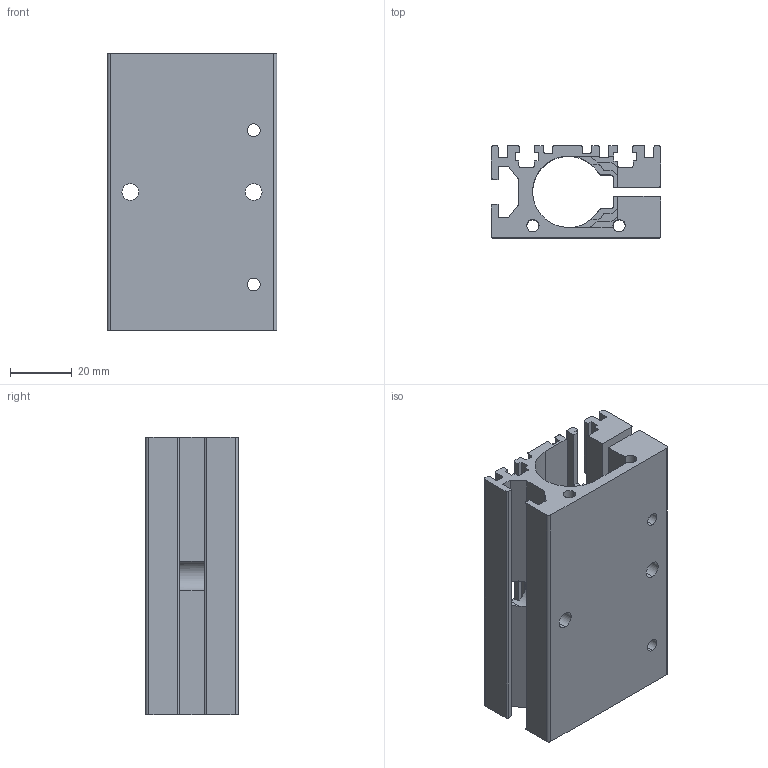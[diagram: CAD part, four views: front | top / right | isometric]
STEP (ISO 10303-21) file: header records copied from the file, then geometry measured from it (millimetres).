
FILE_DESCRIPTION (( 'STEP AP214' ), '1' );
FILE_NAME ('PF02-23x90.STEP', '2009-08-10T12:42:24', ( 'mittelholzer' ), ( '' ), 'SwSTEP 2.0', 'SolidWorks 2005037', '' );
FILE_SCHEMA (( 'AUTOMOTIVE_DESIGN' ));
Length unit declared in the file: millimetre
Products named in the file (1): PF02-23x90
Bounding box: 55 x 30 x 90 mm (x, y, z)
Volume: 71554.1 mm3; surface area: 37659 mm2
Topology: 1 solids, 1 shells, 225 faces, 675 edges, 447 vertices
Faces by surface type: plane 127, cylinder 98
Entity records: 7872 total; most frequent: CARTESIAN_POINT 1584, ORIENTED_EDGE 1350, DIRECTION 1291, EDGE_CURVE 675, VERTEX_POINT 447, AXIS2_PLACEMENT_3D 434, VECTOR 423, LINE 423
